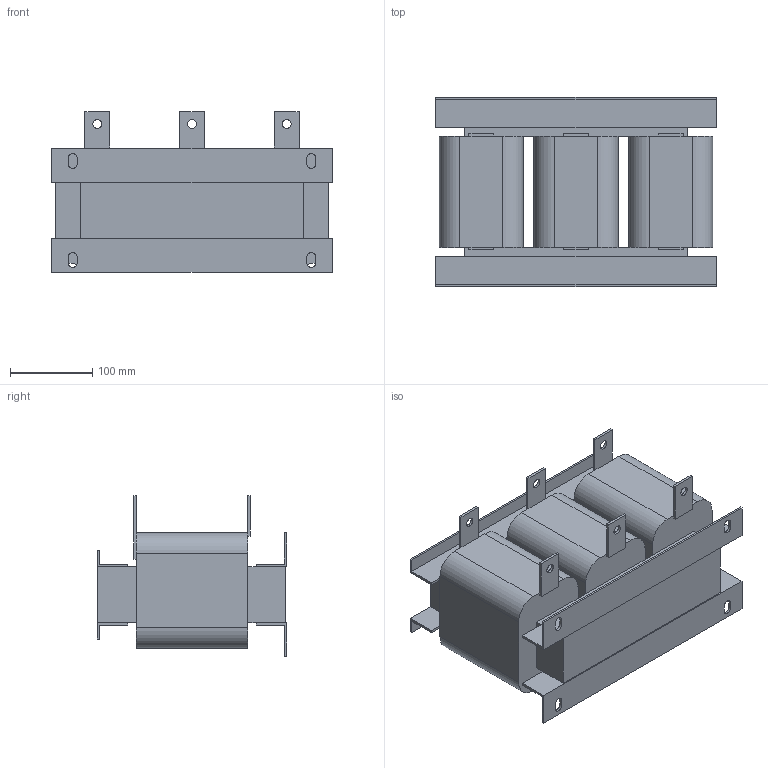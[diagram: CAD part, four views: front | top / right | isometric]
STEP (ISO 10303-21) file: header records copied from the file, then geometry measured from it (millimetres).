
FILE_DESCRIPTION(/* description */ (''),/* implementation_level */ '2;1');
FILE_NAME(/* name */ 'E:\Работа\Веда МК (Данфосс)\!Текущие задачи\2024.08.30 3D модели\Дроссели\ACO 1-проц 660 В\STP\ACO-C-0175-T6.stp',/* time_stamp */ '2024-10-31T15:58:42+04:00',/* author */ ('Александр (огранич)'),/* organization */ (''),/* preprocessor_version */ 'ST-DEVELOPER v18.1',/* originating_system */ 'Autodesk Inventor 2021',/* authorisation */ '');
FILE_SCHEMA (('AUTOMOTIVE_DESIGN { 1 0 10303 214 3 1 1 }'));
Length unit declared in the file: millimetre
Products named in the file (1): ACO-0015-T4-4
Bounding box: 340 x 230 x 195 mm (x, y, z)
Volume: 7567000.6 mm3; surface area: 496622.3 mm2
Topology: 3 solids, 3 shells, 136 faces, 373 edges, 239 vertices
Faces by surface type: plane 110, cylinder 26
Full cylindrical faces by diameter (mm): 11 x6
Entity records: 4327 total; most frequent: CARTESIAN_POINT 749, ORIENTED_EDGE 746, DIRECTION 702, EDGE_CURVE 373, LINE 318, VECTOR 318, VERTEX_POINT 239, AXIS2_PLACEMENT_3D 192
